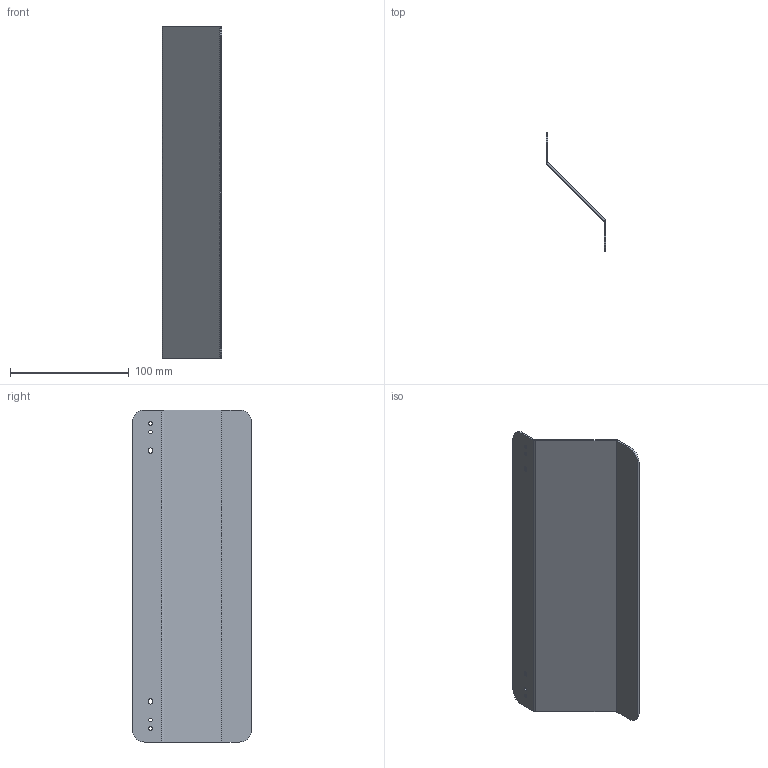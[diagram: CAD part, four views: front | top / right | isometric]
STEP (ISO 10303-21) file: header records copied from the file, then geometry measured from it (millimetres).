
FILE_DESCRIPTION (( 'STEP AP214' ), '1' );
FILE_NAME ('L00066.STEP', '2026-07-27T08:57:42', ( '' ), ( '' ), 'SwSTEP 2.0', 'SolidWorks 2024', '' );
FILE_SCHEMA (( 'AUTOMOTIVE_DESIGN' ));
Length unit declared in the file: millimetre
Products named in the file (1): L00066
Bounding box: 50.5 x 100 x 280 mm (x, y, z)
Volume: 50265 mm3; surface area: 68289 mm2
Topology: 1 solids, 1 shells, 46 faces, 116 edges, 72 vertices
Faces by surface type: cylinder 28, plane 18
Entity records: 1435 total; most frequent: DIRECTION 266, CARTESIAN_POINT 235, ORIENTED_EDGE 232, EDGE_CURVE 116, AXIS2_PLACEMENT_3D 103, VERTEX_POINT 72, LINE 60, VECTOR 60
